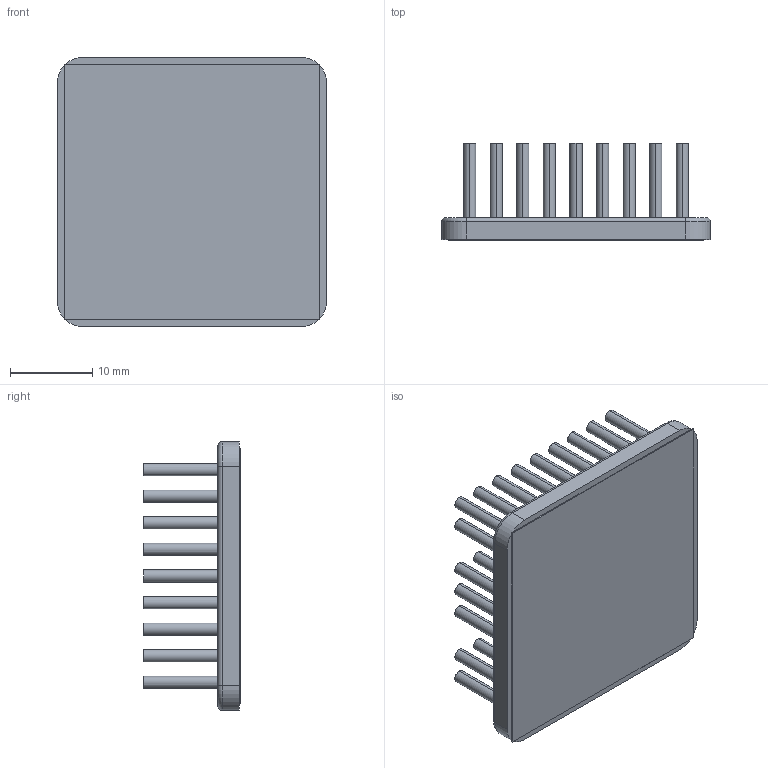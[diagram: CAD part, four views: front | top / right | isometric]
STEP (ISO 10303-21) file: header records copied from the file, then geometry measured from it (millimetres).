
FILE_DESCRIPTION (( 'STEP AP214' ), '1' );
FILE_NAME ('INM33002-12P-2.6.STEP', '2023-02-20T20:05:29', ( '' ), ( '' ), 'SwSTEP 2.0', 'SolidWorks 2020', '' );
FILE_SCHEMA (( 'AUTOMOTIVE_DESIGN' ));
Length unit declared in the file: inch
Products named in the file (1): INM33002-12P-2.6
Bounding box: 32.6 x 11.73 x 32.6 mm (x, y, z)
Volume: 4019.3 mm3; surface area: 7442.1 mm2
Topology: 2 solids, 2 shells, 243 faces, 490 edges, 324 vertices
Faces by surface type: cylinder 154, plane 85, torus 4
Entity records: 9702 total; most frequent: DIRECTION 1290, CARTESIAN_POINT 1058, ORIENTED_EDGE 980, AXIS2_PLACEMENT_3D 556, EDGE_CURVE 490, VERTEX_POINT 324, EDGE_LOOP 316, CIRCLE 312
